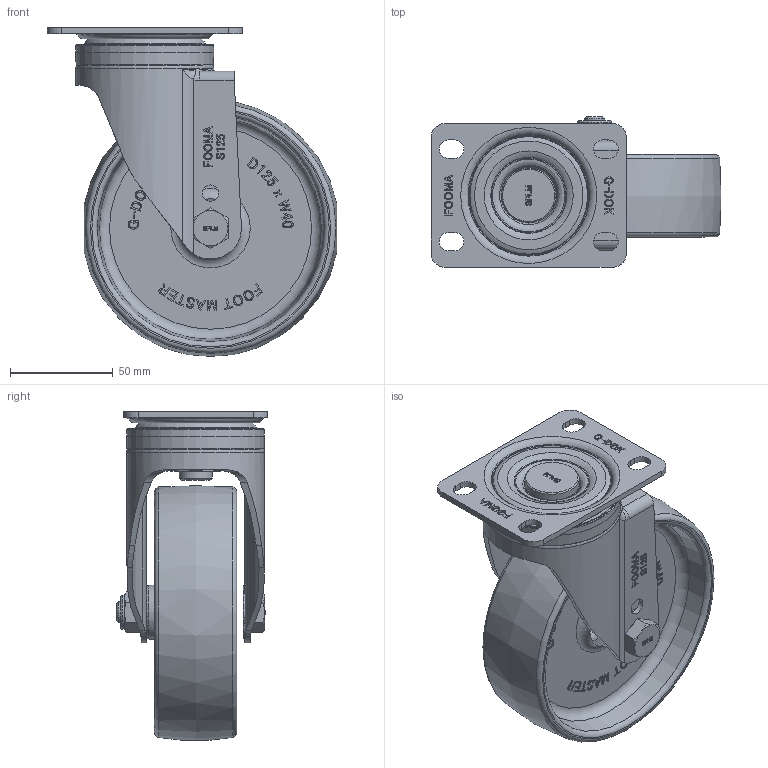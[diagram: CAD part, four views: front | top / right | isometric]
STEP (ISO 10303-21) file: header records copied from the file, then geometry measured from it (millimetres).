
FILE_DESCRIPTION(/* description */ (''),/* implementation_level */ '2;1');
FILE_NAME(/* name */ '\\192.168.10.38\지덕공유\1.기술연구소\2.연구개발 완료\완료_98.스테인레스캐스터 개발건_2023.10.26\제품설계\3D\홈페이지용\NYP\STP\SPLM-125-ASF-NYP.stp',/* time_stamp */ '2025-07-17T17:50:44+09:00',/* author */ ('admin'),/* organization */ ('지덕산업'),/* preprocessor_version */ 'ST-DEVELOPER v18.1',/* originating_system */ 'Autodesk Inventor 2021',/* authorisation */ '');
FILE_SCHEMA (('CONFIG_CONTROL_DESIGN'));
Length unit declared in the file: millimetre
Products named in the file (1): SPLM-125-ASF-NYP
Bounding box: 140.96 x 73.5 x 159.82 mm (x, y, z)
Volume: 319842.8 mm3; surface area: 94317.8 mm2
Topology: 1 solids, 1 shells, 1310 faces, 3571 edges, 2363 vertices
Faces by surface type: plane 649, bspline 454, cylinder 98, cone 72, torus 37
Full cylindrical faces by diameter (mm): 8 x2, 10 x1, 11 x1, 16 x2, 16.5 x1, 26.6 x1, 54 x1, 64 x1, 67 x1
Entity records: 42617 total; most frequent: CARTESIAN_POINT 12627, ORIENTED_EDGE 7138, DIRECTION 4572, EDGE_CURVE 3569, VERTEX_POINT 2363, LINE 2110, VECTOR 2110, EDGE_LOOP 1426
